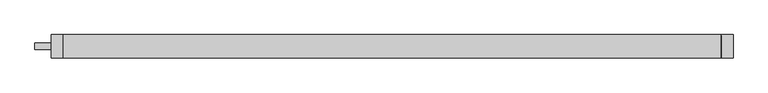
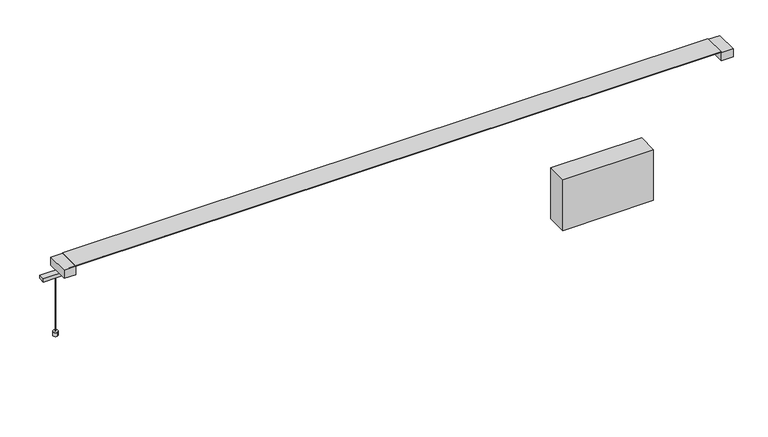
"""IFC4 building model written with IfcOpenShell, lengths in millimetres: light fixture geometry, Fabbian.Pivot F39 (F39 A01A 01,F39 A01A 21,F39 A01A 76,F39 A02A 01,F39 A02A 21,F39 A02A 76) : F39 A01A 01."""

from ifc_helpers import new_model, si_unit, point, frame, frame_2d, origin, origin_with_axes, place, context, project, spatial, polyline, circle_curve, trimmed, segment, composite_curve, outline, extrude, source, transform, mapped, element, save


def light_fixture_5896567f(model_context):
    return source(origin(), model_context, "Body", "SweptSolid", [
        extrude(outline(composite_curve([segment(trimmed(circle_curve(frame_2d((-815.8132834, 0.0)), 0.4949808), [point((-816.3082642, 0.0))], [point((-815.3183026, 0.0))], False, "CARTESIAN"), True, "CONTINUOUS"), segment(trimmed(circle_curve(frame_2d((-815.8132834, 0.0)), 0.4949808), [point((-815.3183026, 0.0))], [point((-816.3082642, 0.0))], False, "CARTESIAN"), True, "CONTINUOUS")], self_intersect=False)), origin_with_axes(), (0.0, 0.0, 1.0), 151.6242394),
        extrude(outline(polyline([(619.1350388, 24.9666442), (619.1350388, -25.0334567), (399.1348055, -25.0334567), (399.1348055, 24.9666442), (619.1350388, 24.9666442)])), frame((0.0, 0.0, -142.875), z_axis=(0.0, 0.0, 1.0), x_axis=(1.0, 0.0, 0.0)), (0.0, 0.0, 1.0), 130.175),
        extrude(outline(polyline([(-0.4107254, 159.893756), (-26.3879175, 181.0787506), (25.5497693, 181.0787506), (0.4107259, 159.893756), (0.4107259, 160.681594), (-0.4107254, 160.681594), (-0.4107254, 159.893756)])), frame((-782.3132834, 0.0, 0.0), z_axis=(1.0, 0.0, 0.0), x_axis=(0.0, 1.0, 0.0)), (0.0, 0.0, 1.0), 1564.6265668),
        extrude(outline(polyline([(-782.3132834, 27.7285043), (-782.3132834, -27.7953166), (-810.5140956, -27.7953166), (-810.5140956, 27.7285043), (-782.3132834, 27.7285043)])), frame((0.0, 0.0, 159.6242394), z_axis=(0.0, 0.0, 1.0), x_axis=(1.0, 0.0, 0.0)), (0.0, 0.0, 1.0), 20.8761838),
        extrude(outline(polyline([(782.3132834, 27.7285042), (810.5140956, 27.7285042), (810.5140956, -27.7953167), (782.3132834, -27.7953167), (782.3132834, 27.7285042)])), frame((0.0, 0.0, 159.6242394), z_axis=(0.0, 0.0, 1.0), x_axis=(1.0, 0.0, 0.0)), (0.0, 0.0, 1.0), 20.8761838),
        extrude(outline(polyline([(0.0, -0.8214513), (0.0, 0.0), (1564.6265668, 0.0), (1564.6265668, -0.8214513), (0.0, -0.8214513)])), frame((-782.3132834, 0.4107259, 159.893756), z_axis=(-5.7155291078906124e-11, 0.0, 1.0), x_axis=(1.0, 0.0, 5.7155291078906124e-11)), (0.0, 0.0, 1.0), 0.787838),
        extrude(outline(polyline([(781.7488887, -27.7780006), (-782.3132834, -27.7780006), (-782.3132834, 27.7779986), (781.7488887, 27.7779986), (781.7488887, -27.7780006)])), frame((0.0, 0.0, 181.0787506), z_axis=(0.0, 0.0, 1.0), x_axis=(1.0, 0.0, 0.0)), (0.0, 0.0, 1.0), 1.1514277),
        extrude(outline(composite_curve([segment(trimmed(circle_curve(frame_2d((-815.8133121, -0.4556113)), 5.8155806), [point((-816.6410047, 5.3007681))], [point((-814.9856195, -6.2119906))], False, "CARTESIAN"), True, "CONTINUOUS"), segment(trimmed(circle_curve(frame_2d((-815.8133121, -0.4556113)), 5.8155806), [point((-814.9856195, -6.2119906))], [point((-816.6410047, 5.3007681))], False, "CARTESIAN"), True, "CONTINUOUS")], self_intersect=False)), origin_with_axes(), (0.0, 0.0, 1.0), 9.6582083),
        extrude(outline(polyline([(-782.3132834, -7.5334062), (-849.3132834, -7.5334062), (-849.3132834, 7.4665938), (-782.3132834, 7.4665938), (-782.3132834, -7.5334062)])), frame((0.0, 0.0, 151.6242394), z_axis=(0.0, 0.0, 1.0), x_axis=(1.0, 0.0, 0.0)), (0.0, 0.0, 1.0), 8.0),
    ])


if __name__ == "__main__":
    model = new_model("IFC4")
    model_context = context("Model", 3, world=origin())
    ifc_project = project(units=[si_unit("LENGTHUNIT", "METRE", prefix="MILLI")], contexts=[model_context])
    site = spatial("IfcSite", under=ifc_project)
    building = spatial("IfcBuilding", under=site)
    placement = place(None, origin())
    light_fixture_shape = light_fixture_5896567f(model_context)
    element("IfcLightFixture", 1, ObjectType="Fabbian.Pivot F39 (F39 A01A 01,F39 A01A 21,F39 A01A 76,F39 A02A 01,F39 A02A 21,F39 A02A 76) : F39 A01A 01", at=placement, inside=building, context=model_context, shape_type="MappedRepresentation", body=[
        mapped(light_fixture_shape, transform((0.0, 0.0, 0.0), x_axis=(1.0, 0.0, 0.0), y_axis=(0.0, 1.0, 0.0), z_axis=(0.0, 0.0, 1.0))),
    ])
    save(model, "model.ifc")
